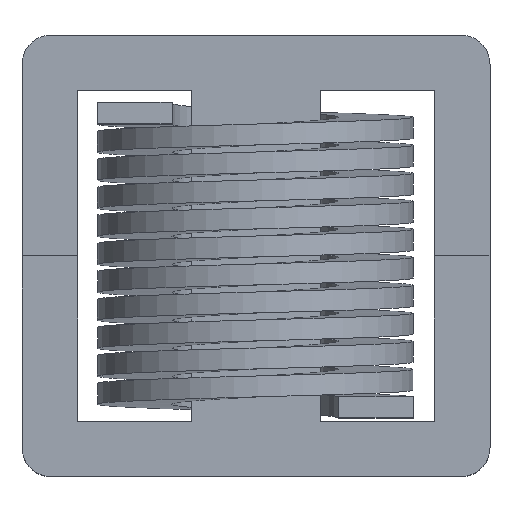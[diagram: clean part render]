
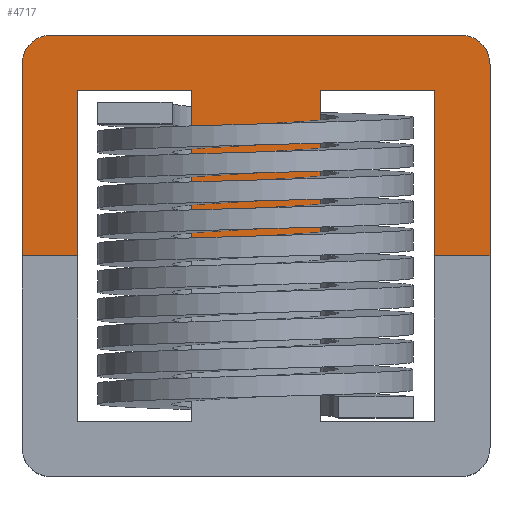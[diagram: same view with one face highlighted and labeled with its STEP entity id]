
A CAD part, top view. The second image highlights one B-rep face of the part: STEP entity #4717.
In plain terms, the highlighted planar face has unit normal (0, 0, 1).
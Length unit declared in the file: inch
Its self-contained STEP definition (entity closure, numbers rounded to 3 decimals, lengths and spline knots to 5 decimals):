
#1 = ORIENTED_EDGE ( 'NONE', *, *, #545, .T. ) ;
#93 = VERTEX_POINT ( 'NONE', #3819 ) ;
#142 = ORIENTED_EDGE ( 'NONE', *, *, #1161, .T. ) ;
#293 = AXIS2_PLACEMENT_3D ( 'NONE', #1192, #4313, #431 ) ;
#294 = EDGE_CURVE ( 'NONE', #1188, #4410, #2520, .T. ) ;
#338 = DIRECTION ( 'NONE',  ( 0., 1., 0. ) ) ;
#384 = CARTESIAN_POINT ( 'NONE',  ( -1.6, -0.655, 0.78 ) ) ;
#413 = VECTOR ( 'NONE', #3833, 39.37008 ) ;
#431 = DIRECTION ( 'NONE',  ( -1., 0., 0. ) ) ;
#523 = VECTOR ( 'NONE', #2601, 39.37008 ) ;
#539 = LINE ( 'NONE', #3473, #839 ) ;
#545 = EDGE_CURVE ( 'NONE', #93, #2816, #885, .T. ) ;
#551 = ORIENTED_EDGE ( 'NONE', *, *, #4358, .T. ) ;
#558 = EDGE_LOOP ( 'NONE', ( #1567, #4109, #2153, #4860, #2740, #975, #4629, #1, #2208, #1399, #551, #4360, #142, #3137 ) ) ;
#702 = VECTOR ( 'NONE', #1226, 39.37008 ) ;
#717 = CARTESIAN_POINT ( 'NONE',  ( 1.4, -0.655, 0.78 ) ) ;
#760 = EDGE_CURVE ( 'NONE', #2049, #4328, #2415, .T. ) ;
#770 = DIRECTION ( 'NONE',  ( -1., 0., 0. ) ) ;
#795 = VERTEX_POINT ( 'NONE', #1480 ) ;
#814 = VECTOR ( 'NONE', #4262, 39.37008 ) ;
#839 = VECTOR ( 'NONE', #770, 39.37008 ) ;
#855 = EDGE_CURVE ( 'NONE', #4369, #3637, #2840, .T. ) ;
#885 = LINE ( 'NONE', #3540, #702 ) ;
#975 = ORIENTED_EDGE ( 'NONE', *, *, #760, .T. ) ;
#1034 = CARTESIAN_POINT ( 'NONE',  ( 1.22, -0.475, 0.78 ) ) ;
#1064 = EDGE_CURVE ( 'NONE', #2509, #4369, #539, .T. ) ;
#1074 = CARTESIAN_POINT ( 'NONE',  ( -0.44, 0.655, 0.78 ) ) ;
#1161 = EDGE_CURVE ( 'NONE', #4410, #2921, #3692, .T. ) ;
#1178 = VECTOR ( 'NONE', #4327, 39.37008 ) ;
#1188 = VERTEX_POINT ( 'NONE', #384 ) ;
#1192 = CARTESIAN_POINT ( 'NONE',  ( -1.4, -0.655, 0.78 ) ) ;
#1226 = DIRECTION ( 'NONE',  ( -1., 0., 0. ) ) ;
#1227 = CARTESIAN_POINT ( 'NONE',  ( -1.6, 0.655, 0.78 ) ) ;
#1247 = LINE ( 'NONE', #4147, #523 ) ;
#1315 = EDGE_CURVE ( 'NONE', #795, #2049, #3454, .T. ) ;
#1399 = ORIENTED_EDGE ( 'NONE', *, *, #3184, .T. ) ;
#1480 = CARTESIAN_POINT ( 'NONE',  ( 0.44, -0.475, 0.78 ) ) ;
#1514 = CARTESIAN_POINT ( 'NONE',  ( 1.22, 0.655, 0.78 ) ) ;
#1567 = ORIENTED_EDGE ( 'NONE', *, *, #4513, .T. ) ;
#1927 = VERTEX_POINT ( 'NONE', #4100 ) ;
#2049 = VERTEX_POINT ( 'NONE', #2901 ) ;
#2086 = LINE ( 'NONE', #3063, #814 ) ;
#2119 = EDGE_CURVE ( 'NONE', #4328, #93, #2368, .T. ) ;
#2153 = ORIENTED_EDGE ( 'NONE', *, *, #855, .T. ) ;
#2208 = ORIENTED_EDGE ( 'NONE', *, *, #2733, .T. ) ;
#2278 = CARTESIAN_POINT ( 'NONE',  ( -1.22, -0.475, 0.78 ) ) ;
#2287 = DIRECTION ( 'NONE',  ( 1., 0., 0. ) ) ;
#2324 = CARTESIAN_POINT ( 'NONE',  ( -0.44, 0.655, 0.78 ) ) ;
#2327 = LINE ( 'NONE', #2355, #3781 ) ;
#2342 = CARTESIAN_POINT ( 'NONE',  ( -1.4, -0.855, 0.78 ) ) ;
#2355 = CARTESIAN_POINT ( 'NONE',  ( 1.6, -0.655, 0.78 ) ) ;
#2368 = LINE ( 'NONE', #2521, #3515 ) ;
#2415 = LINE ( 'NONE', #1074, #3562 ) ;
#2509 = VERTEX_POINT ( 'NONE', #4627 ) ;
#2520 = CIRCLE ( 'NONE', #4235, 0.2 ) ;
#2521 = CARTESIAN_POINT ( 'NONE',  ( -0.44, -0.475, 0.78 ) ) ;
#2546 = VECTOR ( 'NONE', #338, 39.37008 ) ;
#2601 = DIRECTION ( 'NONE',  ( 0., 1., 0. ) ) ;
#2733 = EDGE_CURVE ( 'NONE', #2816, #1927, #1247, .T. ) ;
#2740 = ORIENTED_EDGE ( 'NONE', *, *, #1315, .T. ) ;
#2743 = DIRECTION ( 'NONE',  ( 0., 0., 1. ) ) ;
#2749 = FACE_OUTER_BOUND ( 'NONE', #558, .T. ) ;
#2816 = VERTEX_POINT ( 'NONE', #2278 ) ;
#2822 = VECTOR ( 'NONE', #4248, 39.37008 ) ;
#2840 = LINE ( 'NONE', #1034, #4792 ) ;
#2901 = CARTESIAN_POINT ( 'NONE',  ( 0.44, 0.655, 0.78 ) ) ;
#2921 = VERTEX_POINT ( 'NONE', #4238 ) ;
#2933 = DIRECTION ( 'NONE',  ( 0., -1., 0. ) ) ;
#2935 = CIRCLE ( 'NONE', #3841, 0.2 ) ;
#2955 = DIRECTION ( 'NONE',  ( 0., -1., 0. ) ) ;
#3049 = CARTESIAN_POINT ( 'NONE',  ( -1.6, -0.655, 0.78 ) ) ;
#3063 = CARTESIAN_POINT ( 'NONE',  ( -1.6, 0.655, 0.78 ) ) ;
#3137 = ORIENTED_EDGE ( 'NONE', *, *, #3255, .T. ) ;
#3167 = CARTESIAN_POINT ( 'NONE',  ( -1.4, -0.655, 0.78 ) ) ;
#3184 = EDGE_CURVE ( 'NONE', #1927, #4781, #2086, .T. ) ;
#3253 = LINE ( 'NONE', #4309, #1178 ) ;
#3255 = EDGE_CURVE ( 'NONE', #2921, #3264, #2935, .T. ) ;
#3264 = VERTEX_POINT ( 'NONE', #3453 ) ;
#3426 = DIRECTION ( 'NONE',  ( -1., 0., 0. ) ) ;
#3453 = CARTESIAN_POINT ( 'NONE',  ( 1.6, -0.655, 0.78 ) ) ;
#3454 = LINE ( 'NONE', #3505, #2546 ) ;
#3473 = CARTESIAN_POINT ( 'NONE',  ( 1.22, 0.655, 0.78 ) ) ;
#3505 = CARTESIAN_POINT ( 'NONE',  ( 0.44, -0.475, 0.78 ) ) ;
#3515 = VECTOR ( 'NONE', #2933, 39.37008 ) ;
#3540 = CARTESIAN_POINT ( 'NONE',  ( -0.44, -0.475, 0.78 ) ) ;
#3561 = DIRECTION ( 'NONE',  ( 0., 1., 0. ) ) ;
#3562 = VECTOR ( 'NONE', #3426, 39.37008 ) ;
#3637 = VERTEX_POINT ( 'NONE', #4472 ) ;
#3692 = LINE ( 'NONE', #4247, #413 ) ;
#3720 = EDGE_CURVE ( 'NONE', #3637, #795, #3253, .T. ) ;
#3781 = VECTOR ( 'NONE', #3561, 39.37008 ) ;
#3819 = CARTESIAN_POINT ( 'NONE',  ( -0.44, -0.475, 0.78 ) ) ;
#3833 = DIRECTION ( 'NONE',  ( 1., 0., 0. ) ) ;
#3841 = AXIS2_PLACEMENT_3D ( 'NONE', #717, #4622, #2287 ) ;
#4100 = CARTESIAN_POINT ( 'NONE',  ( -1.22, 0.655, 0.78 ) ) ;
#4109 = ORIENTED_EDGE ( 'NONE', *, *, #1064, .T. ) ;
#4147 = CARTESIAN_POINT ( 'NONE',  ( -1.22, -0.475, 0.78 ) ) ;
#4235 = AXIS2_PLACEMENT_3D ( 'NONE', #3167, #2743, #4331 ) ;
#4238 = CARTESIAN_POINT ( 'NONE',  ( 1.4, -0.855, 0.78 ) ) ;
#4247 = CARTESIAN_POINT ( 'NONE',  ( -1.4, -0.855, 0.78 ) ) ;
#4248 = DIRECTION ( 'NONE',  ( 0., -1., 0. ) ) ;
#4262 = DIRECTION ( 'NONE',  ( -1., 0., 0. ) ) ;
#4309 = CARTESIAN_POINT ( 'NONE',  ( 0.44, -0.475, 0.78 ) ) ;
#4313 = DIRECTION ( 'NONE',  ( 0., 0., -1. ) ) ;
#4327 = DIRECTION ( 'NONE',  ( -1., 0., 0. ) ) ;
#4328 = VERTEX_POINT ( 'NONE', #2324 ) ;
#4331 = DIRECTION ( 'NONE',  ( -1., 0., 0. ) ) ;
#4354 = PLANE ( 'NONE',  #293 ) ;
#4358 = EDGE_CURVE ( 'NONE', #4781, #1188, #4885, .T. ) ;
#4360 = ORIENTED_EDGE ( 'NONE', *, *, #294, .T. ) ;
#4369 = VERTEX_POINT ( 'NONE', #1514 ) ;
#4410 = VERTEX_POINT ( 'NONE', #2342 ) ;
#4472 = CARTESIAN_POINT ( 'NONE',  ( 1.22, -0.475, 0.78 ) ) ;
#4513 = EDGE_CURVE ( 'NONE', #3264, #2509, #2327, .T. ) ;
#4622 = DIRECTION ( 'NONE',  ( 0., 0., 1. ) ) ;
#4627 = CARTESIAN_POINT ( 'NONE',  ( 1.6, 0.655, 0.78 ) ) ;
#4629 = ORIENTED_EDGE ( 'NONE', *, *, #2119, .T. ) ;
#4717 = ADVANCED_FACE ( 'NONE', ( #2749 ), #4354, .F. ) ;
#4781 = VERTEX_POINT ( 'NONE', #1227 ) ;
#4792 = VECTOR ( 'NONE', #2955, 39.37008 ) ;
#4860 = ORIENTED_EDGE ( 'NONE', *, *, #3720, .T. ) ;
#4885 = LINE ( 'NONE', #3049, #2822 ) ;
